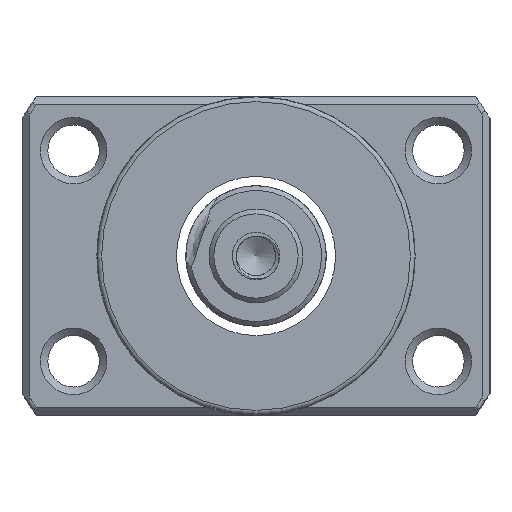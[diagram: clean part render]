
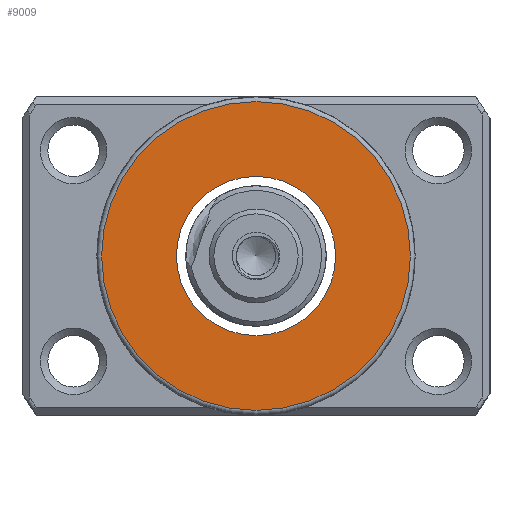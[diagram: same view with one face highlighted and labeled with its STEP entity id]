
A CAD part, left-side view. The second image highlights one B-rep face of the part: STEP entity #9009.
In plain terms, the highlighted planar face has unit normal (-1, 0, 0).
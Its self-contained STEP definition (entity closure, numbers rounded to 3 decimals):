
#148 = AXIS2_PLACEMENT_3D ( 'NONE', #1026, #10659, #6507 ) ;
#885 = VERTEX_POINT ( 'NONE', #4505 ) ;
#1026 = CARTESIAN_POINT ( 'NONE',  ( -53.324, 8.5, 0. ) ) ;
#1283 = CIRCLE ( 'NONE', #6486, 16.5 ) ;
#1637 = DIRECTION ( 'NONE',  ( -1., 0., 0. ) ) ;
#2049 = AXIS2_PLACEMENT_3D ( 'NONE', #5146, #10654, #6100 ) ;
#3330 = FACE_BOUND ( 'NONE', #6449, .T. ) ;
#3383 = DIRECTION ( 'NONE',  ( 0., 0., 1. ) ) ;
#3508 = CARTESIAN_POINT ( 'NONE',  ( -53.324, 0., 0. ) ) ;
#3685 = ORIENTED_EDGE ( 'NONE', *, *, #5964, .F. ) ;
#4505 = CARTESIAN_POINT ( 'NONE',  ( -53.324, 0., 16.5 ) ) ;
#5146 = CARTESIAN_POINT ( 'NONE',  ( -53.324, 0., 0. ) ) ;
#5463 = EDGE_CURVE ( 'NONE', #885, #885, #1283, .T. ) ;
#5529 = CARTESIAN_POINT ( 'NONE',  ( -53.324, 0., 8.5 ) ) ;
#5964 = EDGE_CURVE ( 'NONE', #9008, #9008, #8964, .T. ) ;
#6100 = DIRECTION ( 'NONE',  ( 0., 0., 1. ) ) ;
#6449 = EDGE_LOOP ( 'NONE', ( #3685 ) ) ;
#6486 = AXIS2_PLACEMENT_3D ( 'NONE', #3508, #1637, #3383 ) ;
#6507 = DIRECTION ( 'NONE',  ( 0., 0., 1. ) ) ;
#6847 = EDGE_LOOP ( 'NONE', ( #10657 ) ) ;
#6994 = PLANE ( 'NONE',  #148 ) ;
#8964 = CIRCLE ( 'NONE', #2049, 8.5 ) ;
#9008 = VERTEX_POINT ( 'NONE', #5529 ) ;
#9009 = ADVANCED_FACE ( 'NONE', ( #9210, #3330 ), #6994, .T. ) ;
#9210 = FACE_OUTER_BOUND ( 'NONE', #6847, .T. ) ;
#10654 = DIRECTION ( 'NONE',  ( -1., 0., 0. ) ) ;
#10657 = ORIENTED_EDGE ( 'NONE', *, *, #5463, .T. ) ;
#10659 = DIRECTION ( 'NONE',  ( -1., 0., 0. ) ) ;
